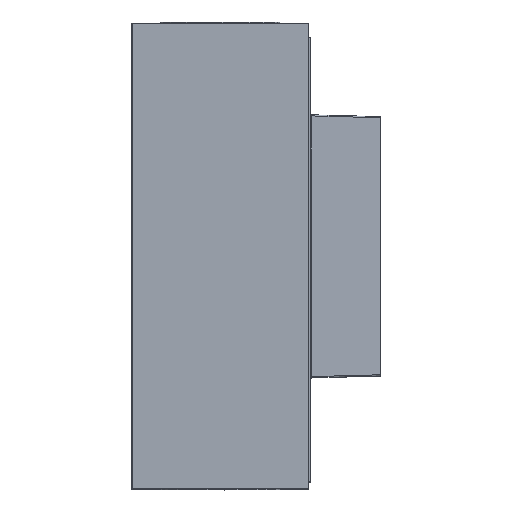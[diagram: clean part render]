
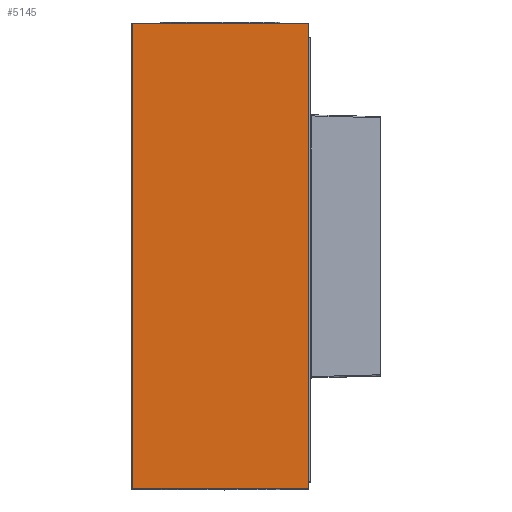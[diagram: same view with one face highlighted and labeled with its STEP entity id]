
A CAD part, top view. The second image highlights one B-rep face of the part: STEP entity #5145.
In plain terms, the highlighted planar face has unit normal (-0.018, 0, 1).
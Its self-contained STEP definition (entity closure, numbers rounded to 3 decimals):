
#336 = DIRECTION ( 'NONE',  ( -0.017, 0., 1. ) ) ;
#471 = ORIENTED_EDGE ( 'NONE', *, *, #19964, .T. ) ;
#717 = DIRECTION ( 'NONE',  ( -1., 0., -0.017 ) ) ;
#1077 = CARTESIAN_POINT ( 'NONE',  ( 40., -105., 41.396 ) ) ;
#2130 = CARTESIAN_POINT ( 'NONE',  ( -39.509, -105., 40.009 ) ) ;
#2173 = LINE ( 'NONE', #16175, #10210 ) ;
#3266 = VECTOR ( 'NONE', #20218, 1000. ) ;
#4019 = EDGE_CURVE ( 'NONE', #14771, #9234, #6497, .T. ) ;
#5145 = ADVANCED_FACE ( 'NONE', ( #20610 ), #5521, .T. ) ;
#5305 = DIRECTION ( 'NONE',  ( 1., 0., 0.017 ) ) ;
#5521 = PLANE ( 'NONE',  #10150 ) ;
#6497 = LINE ( 'NONE', #13397, #3266 ) ;
#8279 = LINE ( 'NONE', #14947, #10488 ) ;
#9234 = VERTEX_POINT ( 'NONE', #18620 ) ;
#10150 = AXIS2_PLACEMENT_3D ( 'NONE', #11981, #336, #5305 ) ;
#10210 = VECTOR ( 'NONE', #717, 1000. ) ;
#10488 = VECTOR ( 'NONE', #21884, 1000. ) ;
#11981 = CARTESIAN_POINT ( 'NONE',  ( -40., -185.012, 40. ) ) ;
#12051 = VERTEX_POINT ( 'NONE', #1077 ) ;
#12071 = EDGE_LOOP ( 'NONE', ( #20491, #15764, #17534, #471 ) ) ;
#12294 = DIRECTION ( 'NONE',  ( 0., -1., 0. ) ) ;
#13397 = CARTESIAN_POINT ( 'NONE',  ( -40., 105., 40. ) ) ;
#13556 = CARTESIAN_POINT ( 'NONE',  ( -39.509, -105., 40.009 ) ) ;
#14243 = LINE ( 'NONE', #2130, #18505 ) ;
#14771 = VERTEX_POINT ( 'NONE', #15160 ) ;
#14920 = EDGE_CURVE ( 'NONE', #14771, #17067, #14243, .T. ) ;
#14947 = CARTESIAN_POINT ( 'NONE',  ( 40., -185.012, 41.396 ) ) ;
#15160 = CARTESIAN_POINT ( 'NONE',  ( -39.509, 105., 40.009 ) ) ;
#15764 = ORIENTED_EDGE ( 'NONE', *, *, #14920, .T. ) ;
#16175 = CARTESIAN_POINT ( 'NONE',  ( -40., -105., 40. ) ) ;
#17067 = VERTEX_POINT ( 'NONE', #13556 ) ;
#17534 = ORIENTED_EDGE ( 'NONE', *, *, #22073, .F. ) ;
#18505 = VECTOR ( 'NONE', #12294, 1000. ) ;
#18620 = CARTESIAN_POINT ( 'NONE',  ( 40., 105., 41.396 ) ) ;
#19964 = EDGE_CURVE ( 'NONE', #12051, #9234, #8279, .T. ) ;
#20218 = DIRECTION ( 'NONE',  ( 1., 0., 0.017 ) ) ;
#20491 = ORIENTED_EDGE ( 'NONE', *, *, #4019, .F. ) ;
#20610 = FACE_OUTER_BOUND ( 'NONE', #12071, .T. ) ;
#21884 = DIRECTION ( 'NONE',  ( 0., 1., 0. ) ) ;
#22073 = EDGE_CURVE ( 'NONE', #12051, #17067, #2173, .T. ) ;
